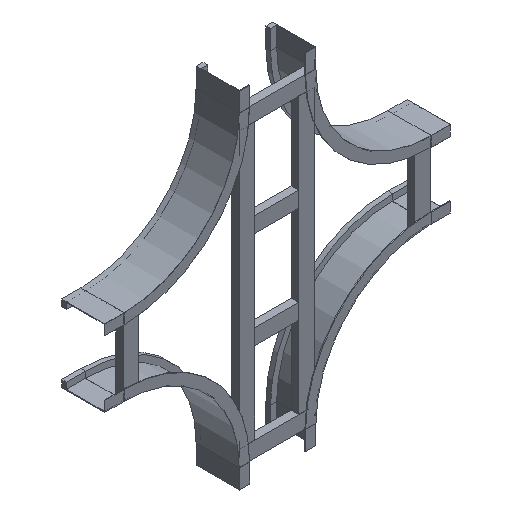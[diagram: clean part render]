
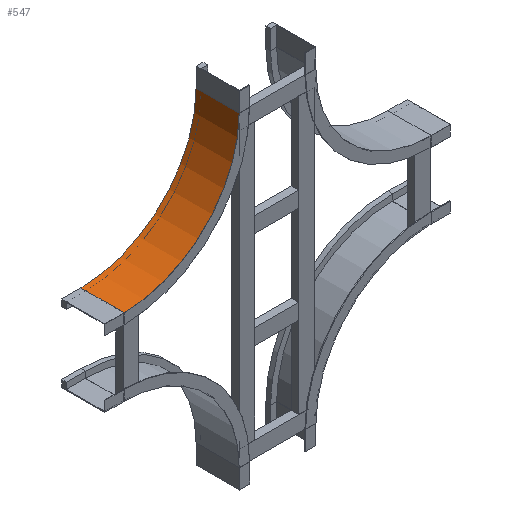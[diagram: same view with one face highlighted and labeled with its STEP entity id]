
A CAD part, isometric view. The second image highlights one B-rep face of the part: STEP entity #547.
In plain terms, the highlighted cylindrical face has radius 300 mm (diameter 600 mm), a partial arc.
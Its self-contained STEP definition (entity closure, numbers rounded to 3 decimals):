
#26 = EDGE_CURVE ( 'NONE', #1368, #259, #1303, .T. ) ;
#72 = AXIS2_PLACEMENT_3D ( 'NONE', #1292, #316, #747 ) ;
#146 = EDGE_CURVE ( 'NONE', #1368, #968, #741, .T. ) ;
#180 = CYLINDRICAL_SURFACE ( 'NONE', #214, 300. ) ;
#196 = CARTESIAN_POINT ( 'NONE',  ( 0., 112.5, -50. ) ) ;
#214 = AXIS2_PLACEMENT_3D ( 'NONE', #1288, #839, #1197 ) ;
#259 = VERTEX_POINT ( 'NONE', #196 ) ;
#260 = EDGE_CURVE ( 'NONE', #259, #1167, #681, .T. ) ;
#316 = DIRECTION ( 'NONE',  ( 0., -1., 0. ) ) ;
#363 = CARTESIAN_POINT ( 'NONE',  ( 300., 112.5, -350. ) ) ;
#372 = EDGE_CURVE ( 'NONE', #968, #1167, #796, .T. ) ;
#374 = ORIENTED_EDGE ( 'NONE', *, *, #372, .T. ) ;
#420 = AXIS2_PLACEMENT_3D ( 'NONE', #594, #998, #1005 ) ;
#464 = CARTESIAN_POINT ( 'NONE',  ( 300., 0., -350. ) ) ;
#547 = ADVANCED_FACE ( 'NONE', ( #1142 ), #180, .F. ) ;
#562 = DIRECTION ( 'NONE',  ( 0., 1., 0. ) ) ;
#594 = CARTESIAN_POINT ( 'NONE',  ( 300., 0., -50. ) ) ;
#597 = ORIENTED_EDGE ( 'NONE', *, *, #146, .T. ) ;
#618 = ORIENTED_EDGE ( 'NONE', *, *, #26, .F. ) ;
#681 = CIRCLE ( 'NONE', #72, 300. ) ;
#741 = CIRCLE ( 'NONE', #420, 300. ) ;
#747 = DIRECTION ( 'NONE',  ( -1., 0., 0. ) ) ;
#779 = ORIENTED_EDGE ( 'NONE', *, *, #260, .F. ) ;
#796 = LINE ( 'NONE', #464, #1255 ) ;
#839 = DIRECTION ( 'NONE',  ( 0., -1., 0. ) ) ;
#869 = CARTESIAN_POINT ( 'NONE',  ( 300., 0., -350. ) ) ;
#968 = VERTEX_POINT ( 'NONE', #869 ) ;
#991 = VECTOR ( 'NONE', #562, 1000. ) ;
#998 = DIRECTION ( 'NONE',  ( 0., -1., 0. ) ) ;
#1005 = DIRECTION ( 'NONE',  ( -1., 0., 0. ) ) ;
#1059 = DIRECTION ( 'NONE',  ( 0., 1., 0. ) ) ;
#1083 = CARTESIAN_POINT ( 'NONE',  ( 0., 0., -50. ) ) ;
#1142 = FACE_OUTER_BOUND ( 'NONE', #1295, .T. ) ;
#1167 = VERTEX_POINT ( 'NONE', #363 ) ;
#1197 = DIRECTION ( 'NONE',  ( 0., 0., -1. ) ) ;
#1255 = VECTOR ( 'NONE', #1059, 1000. ) ;
#1285 = CARTESIAN_POINT ( 'NONE',  ( 0., 0., -50. ) ) ;
#1288 = CARTESIAN_POINT ( 'NONE',  ( 300., 0., -50. ) ) ;
#1292 = CARTESIAN_POINT ( 'NONE',  ( 300., 112.5, -50. ) ) ;
#1295 = EDGE_LOOP ( 'NONE', ( #779, #618, #597, #374 ) ) ;
#1303 = LINE ( 'NONE', #1083, #991 ) ;
#1368 = VERTEX_POINT ( 'NONE', #1285 ) ;
